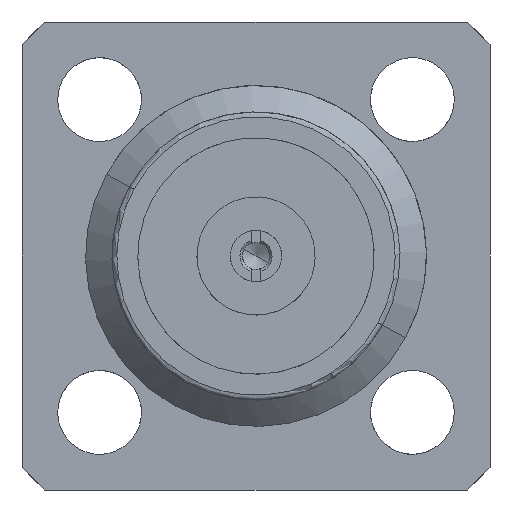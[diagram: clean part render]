
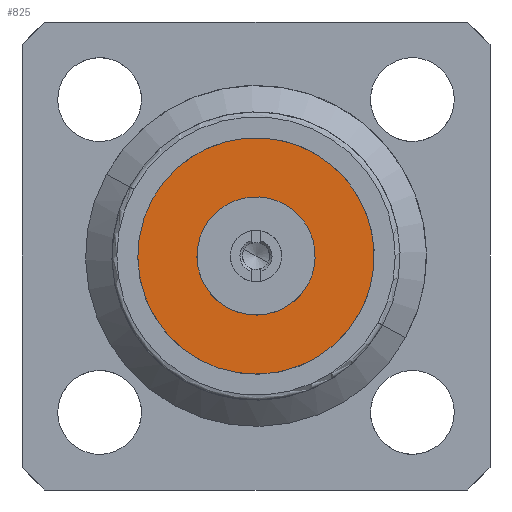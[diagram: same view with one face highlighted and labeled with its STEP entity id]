
A CAD part, left-side view. The second image highlights one B-rep face of the part: STEP entity #825.
In plain terms, the highlighted planar face has unit normal (-1, 0, 0).
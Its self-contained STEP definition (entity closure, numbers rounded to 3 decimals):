
#711=CARTESIAN_POINT('Vertex',(3.,1.053,0.575)) ;
#714=CARTESIAN_POINT('Axis2P3D Location',(3.,0.,0.)) ;
#718=CARTESIAN_POINT('Vertex',(3.,-1.053,-0.575)) ;
#739=CARTESIAN_POINT('Control Point',(3.,1.053,0.575)) ;
#740=CARTESIAN_POINT('Control Point',(3.,0.872,0.906)) ;
#741=CARTESIAN_POINT('Control Point',(3.,0.562,1.166)) ;
#742=CARTESIAN_POINT('Control Point',(3.,0.157,1.285)) ;
#743=CARTESIAN_POINT('Control Point',(3.,-0.646,1.183)) ;
#744=CARTESIAN_POINT('Control Point',(3.,-1.166,0.562)) ;
#745=CARTESIAN_POINT('Control Point',(3.,-1.285,0.157)) ;
#746=CARTESIAN_POINT('Control Point',(3.,-1.234,-0.244)) ;
#747=CARTESIAN_POINT('Control Point',(3.,-1.053,-0.575)) ;
#756=CARTESIAN_POINT('Axis2P3D Location',(3.,-1.2,0.)) ;
#762=CARTESIAN_POINT('Control Point',(3.,-2.106,-1.151)) ;
#763=CARTESIAN_POINT('Control Point',(3.,-1.997,-1.35)) ;
#764=CARTESIAN_POINT('Control Point',(3.,-1.864,-1.537)) ;
#765=CARTESIAN_POINT('Control Point',(3.,-1.71,-1.707)) ;
#766=CARTESIAN_POINT('Control Point',(3.,-1.363,-2.008)) ;
#767=CARTESIAN_POINT('Control Point',(3.,-0.956,-2.219)) ;
#768=CARTESIAN_POINT('Control Point',(3.,-0.741,-2.3)) ;
#769=CARTESIAN_POINT('Control Point',(3.,-0.296,-2.409)) ;
#770=CARTESIAN_POINT('Control Point',(3.,0.163,-2.411)) ;
#771=CARTESIAN_POINT('Control Point',(3.,0.391,-2.384)) ;
#772=CARTESIAN_POINT('Control Point',(3.,0.837,-2.278)) ;
#773=CARTESIAN_POINT('Control Point',(3.,1.246,-2.07)) ;
#774=CARTESIAN_POINT('Control Point',(3.,1.437,-1.942)) ;
#775=CARTESIAN_POINT('Control Point',(3.,1.785,-1.644)) ;
#776=CARTESIAN_POINT('Control Point',(3.,2.054,-1.273)) ;
#777=CARTESIAN_POINT('Control Point',(3.,2.166,-1.072)) ;
#778=CARTESIAN_POINT('Control Point',(3.,2.339,-0.647)) ;
#779=CARTESIAN_POINT('Control Point',(3.,2.409,-0.194)) ;
#780=CARTESIAN_POINT('Control Point',(3.,2.416,0.036)) ;
#781=CARTESIAN_POINT('Control Point',(3.,2.384,0.407)) ;
#782=CARTESIAN_POINT('Control Point',(3.,2.282,0.763)) ;
#783=CARTESIAN_POINT('Control Point',(3.,2.233,0.897)) ;
#784=CARTESIAN_POINT('Control Point',(3.,2.174,1.026)) ;
#785=CARTESIAN_POINT('Control Point',(3.,2.106,1.151)) ;
#786=CARTESIAN_POINT('Vertex',(3.,-2.106,-1.151)) ;
#788=CARTESIAN_POINT('Vertex',(3.,2.106,1.151)) ;
#792=CARTESIAN_POINT('Control Point',(3.,2.106,1.151)) ;
#793=CARTESIAN_POINT('Control Point',(3.,1.997,1.35)) ;
#794=CARTESIAN_POINT('Control Point',(3.,1.864,1.537)) ;
#795=CARTESIAN_POINT('Control Point',(3.,1.71,1.707)) ;
#796=CARTESIAN_POINT('Control Point',(3.,1.363,2.008)) ;
#797=CARTESIAN_POINT('Control Point',(3.,0.956,2.219)) ;
#798=CARTESIAN_POINT('Control Point',(3.,0.741,2.3)) ;
#799=CARTESIAN_POINT('Control Point',(3.,0.296,2.409)) ;
#800=CARTESIAN_POINT('Control Point',(3.,-0.163,2.411)) ;
#801=CARTESIAN_POINT('Control Point',(3.,-0.391,2.384)) ;
#802=CARTESIAN_POINT('Control Point',(3.,-0.837,2.278)) ;
#803=CARTESIAN_POINT('Control Point',(3.,-1.246,2.07)) ;
#804=CARTESIAN_POINT('Control Point',(3.,-1.437,1.942)) ;
#805=CARTESIAN_POINT('Control Point',(3.,-1.785,1.644)) ;
#806=CARTESIAN_POINT('Control Point',(3.,-2.054,1.273)) ;
#807=CARTESIAN_POINT('Control Point',(3.,-2.166,1.072)) ;
#808=CARTESIAN_POINT('Control Point',(3.,-2.339,0.647)) ;
#809=CARTESIAN_POINT('Control Point',(3.,-2.409,0.194)) ;
#810=CARTESIAN_POINT('Control Point',(3.,-2.416,-0.036)) ;
#811=CARTESIAN_POINT('Control Point',(3.,-2.384,-0.407)) ;
#812=CARTESIAN_POINT('Control Point',(3.,-2.282,-0.763)) ;
#813=CARTESIAN_POINT('Control Point',(3.,-2.233,-0.897)) ;
#814=CARTESIAN_POINT('Control Point',(3.,-2.174,-1.026)) ;
#815=CARTESIAN_POINT('Control Point',(3.,-2.106,-1.151)) ;
#715=DIRECTION('Axis2P3D Direction',(1.,0.,0.)) ;
#757=DIRECTION('Axis2P3D Direction',(1.,0.,0.)) ;
#758=DIRECTION('Axis2P3D XDirection',(0.,1.,0.)) ;
#716=AXIS2_PLACEMENT_3D('Circle Axis2P3D',#714,#715,$) ;
#759=AXIS2_PLACEMENT_3D('Plane Axis2P3D',#756,#757,#758) ;
#818=ORIENTED_EDGE('',*,*,#790,.F.) ;
#819=ORIENTED_EDGE('',*,*,#816,.F.) ;
#822=ORIENTED_EDGE('',*,*,#748,.T.) ;
#823=ORIENTED_EDGE('',*,*,#720,.T.) ;
#824=FACE_BOUND('',#821,.T.) ;
#825=ADVANCED_FACE('',(#820,#824),#760,.F.) ;
#738=B_SPLINE_CURVE_WITH_KNOTS('',5,(#739,#740,#741,#742,#743,#744,#745,#746,#747),.UNSPECIFIED.,.F.,.U.,(6,3,6),(-1.885,0.,1.885),.UNSPECIFIED.) ;
#761=B_SPLINE_CURVE_WITH_KNOTS('',5,(#762,#763,#764,#765,#766,#767,#768,#769,#770,#771,#772,#773,#774,#775,#776,#777,#778,#779,#780,#781,#782,#783,#784,#785),.UNSPECIFIED.,.F.,.U.,(6,3,3,3,3,3,3,6),(0.,1.61,3.22,4.83,6.44,8.05,9.66,10.663),.UNSPECIFIED.) ;
#791=B_SPLINE_CURVE_WITH_KNOTS('',5,(#792,#793,#794,#795,#796,#797,#798,#799,#800,#801,#802,#803,#804,#805,#806,#807,#808,#809,#810,#811,#812,#813,#814,#815),.UNSPECIFIED.,.F.,.U.,(6,3,3,3,3,3,3,6),(0.,1.61,3.22,4.83,6.44,8.05,9.66,10.663),.UNSPECIFIED.) ;
#717=CIRCLE('generated circle',#716,1.2) ;
#720=EDGE_CURVE('',#719,#712,#717,.T.) ;
#748=EDGE_CURVE('',#712,#719,#738,.T.) ;
#790=EDGE_CURVE('',#787,#789,#761,.T.) ;
#816=EDGE_CURVE('',#789,#787,#791,.T.) ;
#817=EDGE_LOOP('',(#818,#819)) ;
#821=EDGE_LOOP('',(#822,#823)) ;
#820=FACE_OUTER_BOUND('',#817,.T.) ;
#760=PLANE('Plane',#759) ;
#712=VERTEX_POINT('',#711) ;
#719=VERTEX_POINT('',#718) ;
#787=VERTEX_POINT('',#786) ;
#789=VERTEX_POINT('',#788) ;
